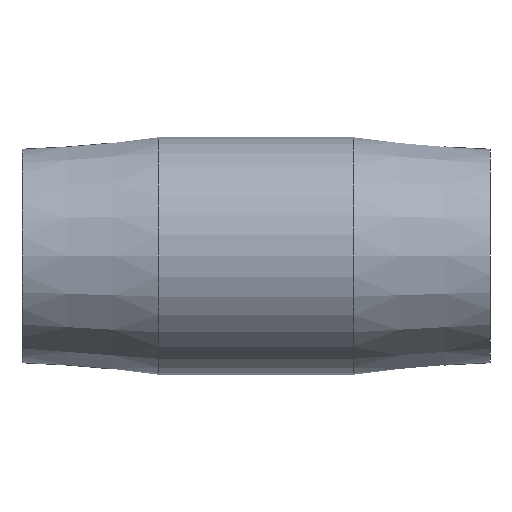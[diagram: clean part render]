
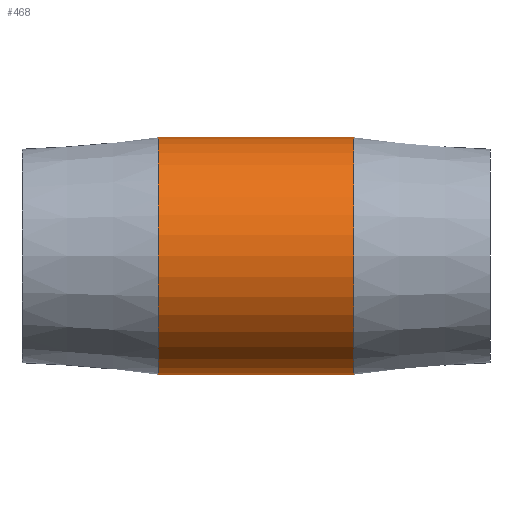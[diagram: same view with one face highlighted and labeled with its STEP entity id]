
A CAD part, front view. The second image highlights one B-rep face of the part: STEP entity #468.
In plain terms, the highlighted cylindrical face has radius 18.034 mm (diameter 36.068 mm), a full revolution.
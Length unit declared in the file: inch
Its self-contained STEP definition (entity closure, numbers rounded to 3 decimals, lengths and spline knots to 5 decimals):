
#44=LINE('',#877,#61);
#61=VECTOR('',#639,0.71);
#76=CYLINDRICAL_SURFACE('',#528,0.71);
#94=FACE_OUTER_BOUND('',#127,.T.);
#127=EDGE_LOOP('',(#350,#351,#352,#353,#354,#355));
#163=CIRCLE('',#529,0.71);
#164=CIRCLE('',#530,0.71);
#165=CIRCLE('',#531,0.71);
#166=CIRCLE('',#532,0.71);
#212=VERTEX_POINT('',#872);
#213=VERTEX_POINT('',#873);
#214=VERTEX_POINT('',#876);
#215=VERTEX_POINT('',#878);
#267=EDGE_CURVE('',#212,#213,#163,.T.);
#268=EDGE_CURVE('',#213,#212,#164,.T.);
#269=EDGE_CURVE('',#213,#214,#44,.T.);
#270=EDGE_CURVE('',#214,#215,#165,.T.);
#271=EDGE_CURVE('',#215,#214,#166,.T.);
#350=ORIENTED_EDGE('',*,*,#267,.F.);
#351=ORIENTED_EDGE('',*,*,#268,.F.);
#352=ORIENTED_EDGE('',*,*,#269,.T.);
#353=ORIENTED_EDGE('',*,*,#270,.T.);
#354=ORIENTED_EDGE('',*,*,#271,.T.);
#355=ORIENTED_EDGE('',*,*,#269,.F.);
#468=ADVANCED_FACE('',(#94),#76,.T.);
#528=AXIS2_PLACEMENT_3D('',#871,#633,#634);
#529=AXIS2_PLACEMENT_3D('',#874,#635,#636);
#530=AXIS2_PLACEMENT_3D('',#875,#637,#638);
#531=AXIS2_PLACEMENT_3D('',#879,#640,#641);
#532=AXIS2_PLACEMENT_3D('',#880,#642,#643);
#633=DIRECTION('center_axis',(1.,0.,0.));
#634=DIRECTION('ref_axis',(0.,1.,0.));
#635=DIRECTION('center_axis',(1.,0.,0.));
#636=DIRECTION('ref_axis',(0.,0.,-1.));
#637=DIRECTION('center_axis',(1.,0.,0.));
#638=DIRECTION('ref_axis',(0.,0.,-1.));
#639=DIRECTION('',(-1.,0.,0.));
#640=DIRECTION('center_axis',(1.,0.,0.));
#641=DIRECTION('ref_axis',(0.,0.,-1.));
#642=DIRECTION('center_axis',(1.,0.,0.));
#643=DIRECTION('ref_axis',(0.,0.,-1.));
#871=CARTESIAN_POINT('Origin',(0.289,0.,0.));
#872=CARTESIAN_POINT('',(0.584,0.71,0.));
#873=CARTESIAN_POINT('',(0.584,-0.71,0.));
#874=CARTESIAN_POINT('Origin',(0.584,0.,0.));
#875=CARTESIAN_POINT('Origin',(0.584,0.,0.));
#876=CARTESIAN_POINT('',(-0.584,-0.71,0.));
#877=CARTESIAN_POINT('',(0.289,-0.71,0.));
#878=CARTESIAN_POINT('',(-0.584,0.71,0.));
#879=CARTESIAN_POINT('Origin',(-0.584,0.,0.));
#880=CARTESIAN_POINT('Origin',(-0.584,0.,0.));
